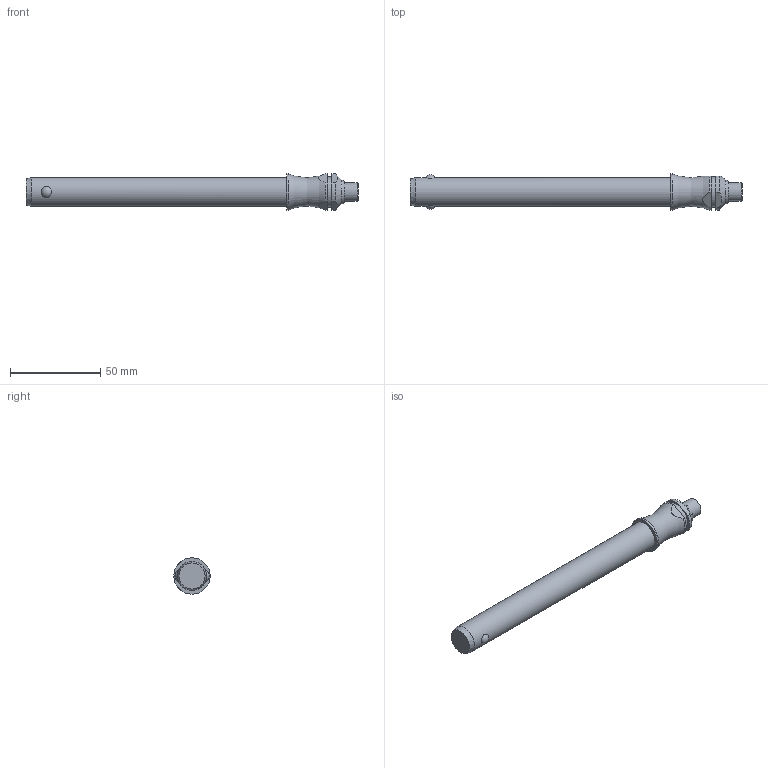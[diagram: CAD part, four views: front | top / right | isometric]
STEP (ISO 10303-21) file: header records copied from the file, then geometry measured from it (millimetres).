
FILE_DESCRIPTION( ( 'STEP AP203' ), '1' );
FILE_NAME( 'C:/Temp/Ganter_Step_05_03_2020/data/3_1/gn113_3/Stainless Steel-Ball lock pin GN 113.3-16-130 (deactivated).stp', '2020-03-12T08:18:59', ( 'License CC BY-ND 4.0' ), ( 'CADENAS' ), ' ', 'PARTsolutions', ' ' );
FILE_SCHEMA( ( 'CONFIG_CONTROL_DESIGN' ) );
Length unit declared in the file: millimetre
Products named in the file (1): _Stainless Steel-Ball lock pin GN 113.3-16-130 (deactivated)
Bounding box: 183.5 x 20 x 20 mm (x, y, z)
Volume: 36902.1 mm3; surface area: 9798.3 mm2
Topology: 1 solids, 1 shells, 28 faces, 60 edges, 39 vertices
Faces by surface type: plane 11, cylinder 10, cone 3, torus 2, sphere 2
Full cylindrical faces by diameter (mm): 10 x1, 16 x1, 17 x1, 20 x1
Entity records: 966 total; most frequent: CARTESIAN_POINT 350, DIRECTION 122, ORIENTED_EDGE 98, AXIS2_PLACEMENT_3D 52, EDGE_CURVE 49, EDGE_LOOP 42, VERTEX_POINT 38, FACE_OUTER_BOUND 34
